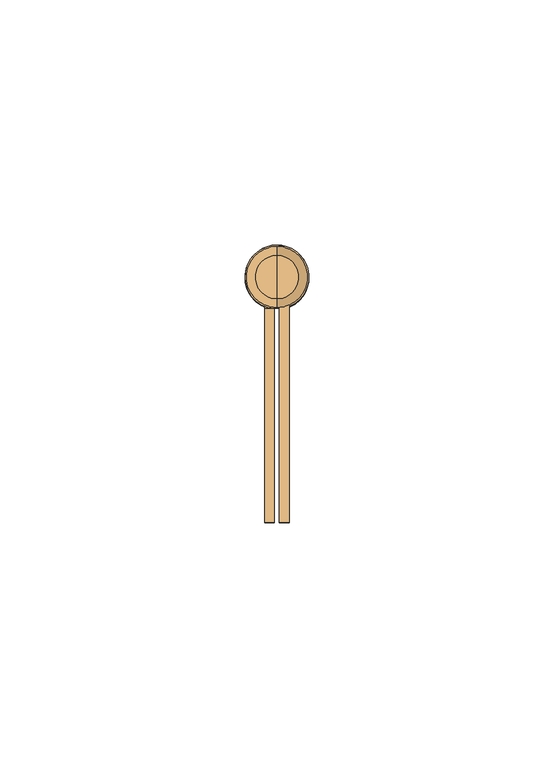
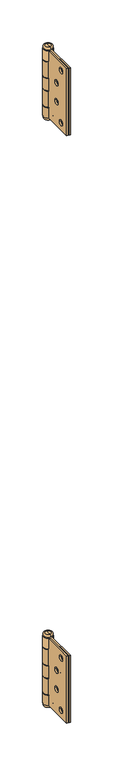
"""IFC4 building model written with IfcOpenShell, lengths in millimetres: door geometry, Puerta contraplacada : Puerta contraplacada 0.7x2.10 m."""

from ifc_helpers import new_model, si_unit, point, frame, origin, place, context, project, spatial, polyline, circle_curve, ellipse_curve, trimmed, source, transform, mapped, element, save
from ifc_brep_helpers import plane_surface, cylinder_surface, revolved_surface, advanced_brep


def door_bb016787(model_context):
    return source(origin(), model_context, "Body", "AdvancedBrep", [
        advanced_brep(
        [(-314.0, 7.5, 1950.0), (-314.0, 7.5, 1850.0), (-314.0, 51.5, 1850.0), (-314.0, 51.5, 1865.5), (-314.0, 51.0, 1865.5), (-314.0, 51.0, 1891.0), (-314.0, 51.5, 1891.0), (-314.0, 51.5, 1909.0), (-314.0, 51.0, 1909.0), (-314.0, 51.0, 1934.5), (-314.0, 51.5, 1934.5), (-314.0, 51.5, 1950.0), (-314.0, 17.5, 1861.0), (-314.0, 25.5, 1861.0), (-314.0, 28.5, 1886.0), (-314.0, 36.5, 1886.0), (-314.0, 17.5, 1939.0), (-314.0, 25.5, 1939.0), (-314.0, 28.5, 1914.0), (-314.0, 36.5, 1914.0), (-316.0, 7.5, 1850.0), (-316.0, 7.5, 1950.0), (-316.0, 53.027864, 1950.0), (-316.0, 53.027864, 1934.5), (-316.0, 51.0, 1934.5), (-316.0, 51.0, 1909.0), (-316.0, 53.027864, 1909.0), (-316.0, 53.027864, 1891.0), (-316.0, 51.0, 1891.0), (-316.0, 51.0, 1865.5), (-316.0, 53.027864, 1865.5), (-316.0, 53.027864, 1850.0), (-316.0, 25.5, 1861.0), (-316.0, 17.5, 1861.0), (-316.0, 36.5, 1886.0), (-316.0, 28.5, 1886.0), (-316.0, 25.5, 1939.0), (-316.0, 17.5, 1939.0), (-316.0, 36.5, 1914.0), (-316.0, 28.5, 1914.0), (-317.0, 53.027864, 1850.0), (-317.0, 51.0192593, 1850.0), (-317.0, 51.0192593, 1950.0), (-317.0, 53.027864, 1950.0), (-317.0, 53.027864, 1934.5), (-317.0, 51.0192593, 1934.5), (-317.0, 51.0192593, 1909.0), (-317.0, 53.027864, 1909.0), (-317.0, 53.027864, 1891.0), (-317.0, 51.0192593, 1891.0), (-317.0, 51.0192593, 1865.5), (-317.0, 53.027864, 1865.5)],
        [
            (0, 1),
            (1, 2),
            (2, 3),
            (3, 4),
            (4, 5),
            (5, 6),
            (6, 7),
            (7, 8),
            (8, 9),
            (9, 10),
            (10, 11),
            (11, 0),
            (12, 13, circle_curve(frame((-314.0, 21.5, 1861.0), z_axis=(-1.0, 0.0, 0.0), x_axis=(0.0, -1.0, 0.0)), 4.0)),
            (13, 12, circle_curve(frame((-314.0, 21.5, 1861.0), z_axis=(-1.0, 0.0, 0.0), x_axis=(0.0, -1.0, 0.0)), 4.0)),
            (14, 15, circle_curve(frame((-314.0, 32.5, 1886.0), z_axis=(-1.0, 0.0, 0.0), x_axis=(0.0, -1.0, 0.0)), 4.0)),
            (15, 14, circle_curve(frame((-314.0, 32.5, 1886.0), z_axis=(-1.0, 0.0, 0.0), x_axis=(0.0, -1.0, 0.0)), 4.0)),
            (16, 17, circle_curve(frame((-314.0, 21.5, 1939.0), z_axis=(-1.0, 0.0, 0.0), x_axis=(0.0, -1.0, 0.0)), 4.0)),
            (17, 16, circle_curve(frame((-314.0, 21.5, 1939.0), z_axis=(-1.0, 0.0, 0.0), x_axis=(0.0, -1.0, 0.0)), 4.0)),
            (18, 19, circle_curve(frame((-314.0, 32.5, 1914.0), z_axis=(-1.0, 0.0, 0.0), x_axis=(0.0, -1.0, 0.0)), 4.0)),
            (19, 18, circle_curve(frame((-314.0, 32.5, 1914.0), z_axis=(-1.0, 0.0, 0.0), x_axis=(0.0, -1.0, 0.0)), 4.0)),
            (20, 21),
            (21, 22),
            (22, 23),
            (23, 24),
            (24, 25),
            (25, 26),
            (26, 27),
            (27, 28),
            (28, 29),
            (29, 30),
            (30, 31),
            (31, 20),
            (32, 33, circle_curve(frame((-316.0, 21.5, 1861.0), z_axis=(1.0, 0.0, 0.0), x_axis=(0.0, -1.0, 0.0)), 4.0)),
            (33, 32, circle_curve(frame((-316.0, 21.5, 1861.0), z_axis=(1.0, 0.0, 0.0), x_axis=(0.0, -1.0, 0.0)), 4.0)),
            (34, 35, circle_curve(frame((-316.0, 32.5, 1886.0), z_axis=(1.0, 0.0, 0.0), x_axis=(0.0, -1.0, 0.0)), 4.0)),
            (35, 34, circle_curve(frame((-316.0, 32.5, 1886.0), z_axis=(1.0, 0.0, 0.0), x_axis=(0.0, -1.0, 0.0)), 4.0)),
            (36, 37, circle_curve(frame((-316.0, 21.5, 1939.0), z_axis=(1.0, 0.0, 0.0), x_axis=(0.0, -1.0, 0.0)), 4.0)),
            (37, 36, circle_curve(frame((-316.0, 21.5, 1939.0), z_axis=(1.0, 0.0, 0.0), x_axis=(0.0, -1.0, 0.0)), 4.0)),
            (38, 39, circle_curve(frame((-316.0, 32.5, 1914.0), z_axis=(1.0, 0.0, 0.0), x_axis=(0.0, -1.0, 0.0)), 4.0)),
            (39, 38, circle_curve(frame((-316.0, 32.5, 1914.0), z_axis=(1.0, 0.0, 0.0), x_axis=(0.0, -1.0, 0.0)), 4.0)),
            (1, 20),
            (31, 40, circle_curve(frame((-316.5, 57.5, 1850.0), z_axis=(0.0, 0.0, 1.0), x_axis=(0.0, 1.0, 0.0)), 4.5)),
            (40, 41),
            (41, 2, circle_curve(frame((-316.5, 57.5, 1850.0), z_axis=(0.0, 0.0, -1.0), x_axis=(0.0, 1.0, 0.0)), 6.5)),
            (0, 21),
            (11, 42, circle_curve(frame((-316.5, 57.5, 1950.0), z_axis=(0.0, 0.0, 1.0), x_axis=(0.0, 1.0, 0.0)), 6.5)),
            (42, 43),
            (43, 22, circle_curve(frame((-316.5, 57.5, 1950.0), z_axis=(0.0, 0.0, -1.0), x_axis=(0.0, 1.0, 0.0)), 4.5)),
            (24, 9),
            (8, 25),
            (28, 5),
            (4, 29),
            (23, 44, circle_curve(frame((-316.5, 57.5, 1934.5), z_axis=(0.0, 0.0, 1.0), x_axis=(0.0, 1.0, 0.0)), 4.5)),
            (44, 45),
            (45, 10, circle_curve(frame((-316.5, 57.5, 1934.5), z_axis=(0.0, 0.0, -1.0), x_axis=(0.0, 1.0, 0.0)), 6.5)),
            (45, 42),
            (44, 43),
            (7, 46, circle_curve(frame((-316.5, 57.5, 1909.0), z_axis=(0.0, 0.0, 1.0), x_axis=(0.0, 1.0, 0.0)), 6.5)),
            (46, 47),
            (47, 26, circle_curve(frame((-316.5, 57.5, 1909.0), z_axis=(0.0, 0.0, -1.0), x_axis=(0.0, 1.0, 0.0)), 4.5)),
            (27, 48, circle_curve(frame((-316.5, 57.5, 1891.0), z_axis=(0.0, 0.0, 1.0), x_axis=(0.0, 1.0, 0.0)), 4.5)),
            (48, 49),
            (49, 6, circle_curve(frame((-316.5, 57.5, 1891.0), z_axis=(0.0, 0.0, -1.0), x_axis=(0.0, 1.0, 0.0)), 6.5)),
            (49, 46),
            (48, 47),
            (3, 50, circle_curve(frame((-316.5, 57.5, 1865.5), z_axis=(0.0, 0.0, 1.0), x_axis=(0.0, 1.0, 0.0)), 6.5)),
            (50, 51),
            (51, 30, circle_curve(frame((-316.5, 57.5, 1865.5), z_axis=(0.0, 0.0, -1.0), x_axis=(0.0, 1.0, 0.0)), 4.5)),
            (41, 50),
            (40, 51),
            (32, 13),
            (12, 33),
            (34, 15),
            (14, 35),
            (36, 17),
            (16, 37),
            (38, 19),
            (18, 39),
        ],
        [
            plane_surface(frame((-314.0, 51.0, 1850.0), z_axis=(1.0, 0.0, 0.0), x_axis=(0.0, 0.0, 1.0))),
            plane_surface(frame((-316.0, 51.0, 1850.0), z_axis=(-1.0, 0.0, 0.0), x_axis=(0.0, 0.0, -1.0))),
            plane_surface(frame((-314.0, 7.5, 1850.0), z_axis=(0.0, 0.0, -1.0), x_axis=(-1.0, 0.0, 0.0))),
            plane_surface(frame((-314.0, 7.5, 1950.0), z_axis=(0.0, -1.0, 0.0), x_axis=(-1.0, 0.0, 0.0))),
            plane_surface(frame((-314.0, 51.0, 1950.0), z_axis=(0.0, 0.0, 1.0), x_axis=(-1.0, 0.0, 0.0))),
            plane_surface(frame((-314.0, 51.0, 1850.0), z_axis=(0.0, 1.0, 0.0), x_axis=(-1.0, 0.0, 0.0))),
            plane_surface(frame((-316.0, 51.0, 1934.5), z_axis=(0.0, 0.0, -1.0), x_axis=(0.0, 1.0, 0.0))),
            cylinder_surface(frame((-316.5, 57.5, 1934.5), z_axis=(0.0, 0.0, 1.0), x_axis=(0.0, 1.0, 0.0)), 6.5),
            plane_surface(frame((-317.0, 51.0192593, 1950.0), z_axis=(1.0, 0.0, 0.0), x_axis=(0.0, 0.0, -1.0))),
            revolved_surface(polyline([(-316.5, 62.0, 1934.5), (-316.5, 62.0, 1950.0)]), (-316.5, 57.5, 1934.5), (0.0, 0.0, -1.0)),
            plane_surface(frame((-316.0, 51.0, 1909.0), z_axis=(0.0, 0.0, 1.0), x_axis=(0.0, -1.0, 0.0))),
            plane_surface(frame((-316.0, 51.0, 1891.0), z_axis=(0.0, 0.0, -1.0), x_axis=(0.0, 1.0, 0.0))),
            cylinder_surface(frame((-316.5, 57.5, 1891.0), z_axis=(0.0, 0.0, 1.0), x_axis=(0.0, 1.0, 0.0)), 6.5),
            plane_surface(frame((-317.0, 51.0192593, 1909.0), z_axis=(1.0, 0.0, 0.0), x_axis=(0.0, 0.0, -1.0))),
            revolved_surface(polyline([(-316.5, 62.0, 1891.0), (-316.5, 62.0, 1909.0)]), (-316.5, 57.5, 1891.0), (0.0, 0.0, -1.0)),
            plane_surface(frame((-316.0, 51.0, 1865.5), z_axis=(0.0, 0.0, 1.0), x_axis=(0.0, -1.0, 0.0))),
            cylinder_surface(frame((-316.5, 57.5, 1850.0), z_axis=(0.0, 0.0, 1.0), x_axis=(0.0, 1.0, 0.0)), 6.5),
            plane_surface(frame((-317.0, 51.0192593, 1865.5), z_axis=(1.0, 0.0, 0.0), x_axis=(0.0, 0.0, -1.0))),
            revolved_surface(polyline([(-316.5, 62.0, 1850.0), (-316.5, 62.0, 1865.5)]), (-316.5, 57.5, 1850.0), (0.0, 0.0, -1.0)),
            revolved_surface(polyline([(-314.0, 17.5, 1861.0), (-316.0, 17.5, 1861.0)]), (-319.0, 21.5, 1861.0), (1.0, 0.0, 0.0)),
            revolved_surface(polyline([(-314.0, 28.5, 1886.0), (-316.0, 28.5, 1886.0)]), (-317.0, 32.5, 1886.0), (1.0, 0.0, 0.0)),
            revolved_surface(polyline([(-314.0, 17.5, 1939.0), (-316.0, 17.5, 1939.0)]), (-317.0, 21.5, 1939.0), (1.0, 0.0, 0.0)),
            revolved_surface(polyline([(-314.0, 28.5, 1914.0), (-316.0, 28.5, 1914.0)]), (-317.0, 32.5, 1914.0), (1.0, 0.0, 0.0)),
        ],
        [
            (0, [[1, 2, 3, 4, 5, 6, 7, 8, 9, 10, 11, 12], [13, 14], [15, 16], [17, 18], [19, 20]]),
            (1, [[21, 22, 23, 24, 25, 26, 27, 28, 29, 30, 31, 32], [33, 34], [35, 36], [37, 38], [39, 40]]),
            (2, [[41, -32, 42, 43, 44, -2]]),
            (3, [[-1, 45, -21, -41]]),
            (4, [[-45, -12, 46, 47, 48, -22]]),
            (5, [[49, -9, 50, -25]]),
            (5, [[51, -5, 52, -29]]),
            (6, [[53, 54, 55, -10, -49, -24]]),
            (7, [[-46, -11, -55, 56]]),
            (8, [[-47, -56, -54, 57]]),
            (9, [[-48, -57, -53, -23]]),
            (10, [[58, 59, 60, -26, -50, -8]]),
            (11, [[61, 62, 63, -6, -51, -28]]),
            (12, [[-58, -7, -63, 64]]),
            (13, [[-59, -64, -62, 65]]),
            (14, [[-60, -65, -61, -27]]),
            (15, [[66, 67, 68, -30, -52, -4]]),
            (16, [[-66, -3, -44, 69]]),
            (17, [[-67, -69, -43, 70]]),
            (18, [[-68, -70, -42, -31]]),
            (19, [[71, -13, 72, -33]]),
            (19, [[-71, -34, -72, -14]]),
            (20, [[73, -15, 74, -35]]),
            (20, [[-73, -36, -74, -16]]),
            (21, [[75, -17, 76, -37]]),
            (21, [[-75, -38, -76, -18]]),
            (22, [[77, -19, 78, -39]]),
            (22, [[-77, -40, -78, -20]]),
        ],
    ),
        advanced_brep(
        [(-316.5, 53.0, 1954.0), (-316.5, 61.9442719, 1954.0), (-316.5, 61.9442719, 1950.5), (-316.5, 53.0, 1950.5), (-316.5, 57.472136, 1954.0), (-316.5, 53.0, 1846.0), (-316.5, 61.9442719, 1846.0), (-316.5, 57.472136, 1846.0), (-316.5, 53.0, 1849.5), (-316.5, 61.9442719, 1849.5)],
        [
            (0, 1, circle_curve(frame((-316.5, 57.472136, 1954.0), z_axis=(0.0, 0.0, -1.0), x_axis=(0.0, 1.0, 0.0)), 4.472136)),
            (1, 2, circle_curve(frame((-316.5, 61.9442719, 1952.25), z_axis=(-1.0, 0.0, 0.0), x_axis=(0.0, -1.0, 0.0)), 1.75)),
            (2, 3, circle_curve(frame((-316.5, 57.472136, 1950.5), z_axis=(0.0, 0.0, 1.0), x_axis=(0.0, 1.0, 0.0)), 4.472136)),
            (3, 0, circle_curve(frame((-316.5, 53.0, 1952.25), z_axis=(-1.0, 0.0, 0.0), x_axis=(0.0, 1.0, 0.0)), 1.75)),
            (1, 0, circle_curve(frame((-316.5, 57.472136, 1954.0), z_axis=(0.0, 0.0, -1.0), x_axis=(0.0, 1.0, 0.0)), 4.472136)),
            (3, 2, circle_curve(frame((-316.5, 57.472136, 1950.5), z_axis=(0.0, 0.0, 1.0), x_axis=(0.0, 1.0, 0.0)), 4.472136)),
            (4, 1),
            (0, 4),
            (5, 6, circle_curve(frame((-316.5, 57.472136, 1846.0), z_axis=(0.0, 0.0, -1.0), x_axis=(0.0, 1.0, 0.0)), 4.472136)),
            (6, 7),
            (7, 5),
            (6, 5, circle_curve(frame((-316.5, 57.472136, 1846.0), z_axis=(0.0, 0.0, -1.0), x_axis=(0.0, 1.0, 0.0)), 4.472136)),
            (8, 9, circle_curve(frame((-316.5, 57.472136, 1849.5), z_axis=(0.0, 0.0, -1.0), x_axis=(0.0, 1.0, 0.0)), 4.472136)),
            (9, 6, circle_curve(frame((-316.5, 61.9442719, 1847.75), z_axis=(-1.0, 0.0, 0.0), x_axis=(0.0, -1.0, 0.0)), 1.75)),
            (5, 8, circle_curve(frame((-316.5, 53.0, 1847.75), z_axis=(-1.0, 0.0, 0.0), x_axis=(0.0, 1.0, 0.0)), 1.75)),
            (9, 8, circle_curve(frame((-316.5, 57.472136, 1849.5), z_axis=(0.0, 0.0, -1.0), x_axis=(0.0, 1.0, 0.0)), 4.472136)),
            (2, 9),
            (8, 3),
        ],
        [
            revolved_surface(trimmed(ellipse_curve(frame((-316.5, 61.9442719, 1952.25), z_axis=(1.0, 0.0, 0.0), x_axis=(0.0, -1.0, 0.0)), 1.75, 1.75), [point((-316.5, 61.9442719, 1950.5))], [point((-316.5, 61.9442719, 1954.0))], True, "CARTESIAN"), (-316.5, 57.472136, 1954.0), (0.0, 0.0, 1.0)),
            plane_surface(frame((-316.5, 57.472136, 1954.0), z_axis=(0.0, 0.0, 1.0), x_axis=(0.0, 1.0, 0.0))),
            plane_surface(frame((-316.5, 57.472136, 1846.0), z_axis=(0.0, 0.0, -1.0), x_axis=(0.0, 1.0, 0.0))),
            revolved_surface(trimmed(ellipse_curve(frame((-316.5, 61.9442719, 1847.75), z_axis=(1.0, 0.0, 0.0), x_axis=(0.0, -1.0, 0.0)), 1.75, 1.75), [point((-316.5, 61.9442719, 1846.0))], [point((-316.5, 61.9442719, 1849.5))], True, "CARTESIAN"), (-316.5, 57.472136, 1954.0), (0.0, 0.0, 1.0)),
            cylinder_surface(frame((-316.5, 57.472136, 1954.0), z_axis=(0.0, 0.0, 1.0), x_axis=(0.0, 1.0, 0.0)), 4.472136),
        ],
        [
            (0, [[1, 2, 3, 4]]),
            (0, [[5, -4, 6, -2]]),
            (1, [[7, -1, 8]]),
            (1, [[-8, -5, -7]]),
            (2, [[9, 10, 11]]),
            (2, [[12, -11, -10]]),
            (3, [[13, 14, -9, 15]]),
            (3, [[16, -15, -12, -14]]),
            (4, [[-3, 17, -13, 18]]),
            (4, [[-6, -18, -16, -17]]),
        ],
    ),
        advanced_brep(
        [(-317.0, 51.0, 1950.0), (-317.0, 7.5, 1950.0), (-317.0, 7.5, 1850.0), (-317.0, 51.0, 1850.0), (-317.0, 51.0, 1866.5), (-317.0, 53.027864, 1866.5), (-317.0, 53.027864, 1890.0), (-317.0, 51.0, 1890.0), (-317.0, 51.0, 1910.0), (-317.0, 53.027864, 1910.0), (-317.0, 53.027864, 1933.5), (-317.0, 51.0, 1933.5), (-317.0, 17.5, 1861.0), (-317.0, 25.5, 1861.0), (-317.0, 28.5, 1886.0), (-317.0, 36.5, 1886.0), (-317.0, 17.5, 1939.0), (-317.0, 25.5, 1939.0), (-317.0, 28.5, 1914.0), (-317.0, 36.5, 1914.0), (-319.0, 51.0, 1850.0), (-319.0, 7.5, 1850.0), (-319.0, 7.5, 1950.0), (-319.0, 51.0, 1950.0), (-319.0, 51.0, 1933.5), (-319.0, 51.5, 1933.5), (-319.0, 51.5, 1910.0), (-319.0, 51.0, 1910.0), (-319.0, 51.0, 1890.0), (-319.0, 51.5, 1890.0), (-319.0, 51.5, 1866.5), (-319.0, 51.0, 1866.5), (-319.0, 25.5, 1861.0), (-319.0, 17.5, 1861.0), (-319.0, 36.5, 1886.0), (-319.0, 28.5, 1886.0), (-319.0, 25.5, 1939.0), (-319.0, 17.5, 1939.0), (-319.0, 36.5, 1914.0), (-319.0, 28.5, 1914.0), (-316.0, 53.027864, 1933.5), (-316.0, 51.0192593, 1933.5), (-316.0, 51.0192593, 1910.0), (-316.0, 53.027864, 1910.0), (-316.0, 53.027864, 1890.0), (-316.0, 51.0192593, 1890.0), (-316.0, 51.0192593, 1866.5), (-316.0, 53.027864, 1866.5)],
        [
            (0, 1),
            (1, 2),
            (2, 3),
            (3, 4),
            (4, 5),
            (5, 6),
            (6, 7),
            (7, 8),
            (8, 9),
            (9, 10),
            (10, 11),
            (11, 0),
            (12, 13, circle_curve(frame((-317.0, 21.5, 1861.0), z_axis=(-1.0, 0.0, 0.0), x_axis=(0.0, -1.0, 0.0)), 4.0)),
            (13, 12, circle_curve(frame((-317.0, 21.5, 1861.0), z_axis=(-1.0, 0.0, 0.0), x_axis=(0.0, -1.0, 0.0)), 4.0)),
            (14, 15, circle_curve(frame((-317.0, 32.5, 1886.0), z_axis=(-1.0, 0.0, 0.0), x_axis=(0.0, -1.0, 0.0)), 4.0)),
            (15, 14, circle_curve(frame((-317.0, 32.5, 1886.0), z_axis=(-1.0, 0.0, 0.0), x_axis=(0.0, -1.0, 0.0)), 4.0)),
            (16, 17, circle_curve(frame((-317.0, 21.5, 1939.0), z_axis=(-1.0, 0.0, 0.0), x_axis=(0.0, -1.0, 0.0)), 4.0)),
            (17, 16, circle_curve(frame((-317.0, 21.5, 1939.0), z_axis=(-1.0, 0.0, 0.0), x_axis=(0.0, -1.0, 0.0)), 4.0)),
            (18, 19, circle_curve(frame((-317.0, 32.5, 1914.0), z_axis=(-1.0, 0.0, 0.0), x_axis=(0.0, -1.0, 0.0)), 4.0)),
            (19, 18, circle_curve(frame((-317.0, 32.5, 1914.0), z_axis=(-1.0, 0.0, 0.0), x_axis=(0.0, -1.0, 0.0)), 4.0)),
            (20, 21),
            (21, 22),
            (22, 23),
            (23, 24),
            (24, 25),
            (25, 26),
            (26, 27),
            (27, 28),
            (28, 29),
            (29, 30),
            (30, 31),
            (31, 20),
            (32, 33, circle_curve(frame((-319.0, 21.5, 1861.0), z_axis=(1.0, 0.0, 0.0), x_axis=(0.0, -1.0, 0.0)), 4.0)),
            (33, 32, circle_curve(frame((-319.0, 21.5, 1861.0), z_axis=(1.0, 0.0, 0.0), x_axis=(0.0, -1.0, 0.0)), 4.0)),
            (34, 35, circle_curve(frame((-319.0, 32.5, 1886.0), z_axis=(1.0, 0.0, 0.0), x_axis=(0.0, -1.0, 0.0)), 4.0)),
            (35, 34, circle_curve(frame((-319.0, 32.5, 1886.0), z_axis=(1.0, 0.0, 0.0), x_axis=(0.0, -1.0, 0.0)), 4.0)),
            (36, 37, circle_curve(frame((-319.0, 21.5, 1939.0), z_axis=(1.0, 0.0, 0.0), x_axis=(0.0, -1.0, 0.0)), 4.0)),
            (37, 36, circle_curve(frame((-319.0, 21.5, 1939.0), z_axis=(1.0, 0.0, 0.0), x_axis=(0.0, -1.0, 0.0)), 4.0)),
            (38, 39, circle_curve(frame((-319.0, 32.5, 1914.0), z_axis=(1.0, 0.0, 0.0), x_axis=(0.0, -1.0, 0.0)), 4.0)),
            (39, 38, circle_curve(frame((-319.0, 32.5, 1914.0), z_axis=(1.0, 0.0, 0.0), x_axis=(0.0, -1.0, 0.0)), 4.0)),
            (2, 21),
            (20, 3),
            (1, 22),
            (0, 23),
            (11, 24),
            (31, 4),
            (27, 8),
            (7, 28),
            (10, 40, circle_curve(frame((-316.5, 57.5, 1933.5), z_axis=(0.0, 0.0, -1.0), x_axis=(0.0, 1.0, 0.0)), 4.5)),
            (40, 41),
            (41, 25, circle_curve(frame((-316.5, 57.5, 1933.5), z_axis=(0.0, 0.0, 1.0), x_axis=(0.0, 1.0, 0.0)), 6.5)),
            (26, 42, circle_curve(frame((-316.5, 57.5, 1910.0), z_axis=(0.0, 0.0, -1.0), x_axis=(0.0, 1.0, 0.0)), 6.5)),
            (42, 43),
            (43, 9, circle_curve(frame((-316.5, 57.5, 1910.0), z_axis=(0.0, 0.0, 1.0), x_axis=(0.0, 1.0, 0.0)), 4.5)),
            (41, 42),
            (40, 43),
            (6, 44, circle_curve(frame((-316.5, 57.5, 1890.0), z_axis=(0.0, 0.0, -1.0), x_axis=(0.0, 1.0, 0.0)), 4.5)),
            (44, 45),
            (45, 29, circle_curve(frame((-316.5, 57.5, 1890.0), z_axis=(0.0, 0.0, 1.0), x_axis=(0.0, 1.0, 0.0)), 6.5)),
            (30, 46, circle_curve(frame((-316.5, 57.5, 1866.5), z_axis=(0.0, 0.0, -1.0), x_axis=(0.0, 1.0, 0.0)), 6.5)),
            (46, 47),
            (47, 5, circle_curve(frame((-316.5, 57.5, 1866.5), z_axis=(0.0, 0.0, 1.0), x_axis=(0.0, 1.0, 0.0)), 4.5)),
            (45, 46),
            (44, 47),
            (32, 13),
            (12, 33),
            (34, 15),
            (14, 35),
            (36, 17),
            (16, 37),
            (38, 19),
            (18, 39),
        ],
        [
            plane_surface(frame((-317.0, 51.0, 1850.0), z_axis=(1.0, 0.0, 0.0), x_axis=(0.0, 0.0, 1.0))),
            plane_surface(frame((-319.0, 51.0, 1850.0), z_axis=(-1.0, 0.0, 0.0), x_axis=(0.0, 0.0, -1.0))),
            plane_surface(frame((-317.0, 7.5, 1850.0), z_axis=(0.0, 0.0, -1.0), x_axis=(-1.0, 0.0, 0.0))),
            plane_surface(frame((-317.0, 7.5, 1950.0), z_axis=(0.0, -1.0, 0.0), x_axis=(-1.0, 0.0, 0.0))),
            plane_surface(frame((-317.0, 51.0, 1950.0), z_axis=(0.0, 0.0, 1.0), x_axis=(-1.0, 0.0, 0.0))),
            plane_surface(frame((-317.0, 51.0, 1850.0), z_axis=(0.0, 1.0, 0.0), x_axis=(-1.0, 0.0, 0.0))),
            plane_surface(frame((-316.5, 62.0, 1933.5), z_axis=(0.0, 0.0, 1.0), x_axis=(1.0, 0.0, 0.0))),
            plane_surface(frame((-316.5, 62.0, 1910.0), z_axis=(0.0, 0.0, -1.0), x_axis=(-1.0, 0.0, 0.0))),
            cylinder_surface(frame((-316.5, 57.5, 1910.0), z_axis=(0.0, 0.0, 1.0), x_axis=(0.0, 1.0, 0.0)), 6.5),
            plane_surface(frame((-316.0, 53.027864, 1933.5), z_axis=(-1.0, 0.0, 0.0), x_axis=(0.0, 0.0, -1.0))),
            revolved_surface(polyline([(-316.5, 62.0, 1910.0), (-316.5, 62.0, 1933.5)]), (-316.5, 57.5, 1910.0), (0.0, 0.0, -1.0)),
            plane_surface(frame((-316.5, 62.0, 1890.0), z_axis=(0.0, 0.0, 1.0), x_axis=(1.0, 0.0, 0.0))),
            plane_surface(frame((-316.5, 62.0, 1866.5), z_axis=(0.0, 0.0, -1.0), x_axis=(-1.0, 0.0, 0.0))),
            cylinder_surface(frame((-316.5, 57.5, 1866.5), z_axis=(0.0, 0.0, 1.0), x_axis=(0.0, 1.0, 0.0)), 6.5),
            plane_surface(frame((-316.0, 53.027864, 1890.0), z_axis=(-1.0, 0.0, 0.0), x_axis=(0.0, 0.0, -1.0))),
            revolved_surface(polyline([(-316.5, 62.0, 1866.5), (-316.5, 62.0, 1890.0)]), (-316.5, 57.5, 1866.5), (0.0, 0.0, -1.0)),
            revolved_surface(polyline([(-317.0, 17.5, 1861.0), (-319.0, 17.5, 1861.0)]), (-319.0, 21.5, 1861.0), (1.0, 0.0, 0.0)),
            revolved_surface(polyline([(-317.0, 28.5, 1886.0), (-319.0, 28.5, 1886.0)]), (-317.0, 32.5, 1886.0), (1.0, 0.0, 0.0)),
            revolved_surface(polyline([(-317.0, 17.5, 1939.0), (-319.0, 17.5, 1939.0)]), (-317.0, 21.5, 1939.0), (1.0, 0.0, 0.0)),
            revolved_surface(polyline([(-317.0, 28.5, 1914.0), (-319.0, 28.5, 1914.0)]), (-317.0, 32.5, 1914.0), (1.0, 0.0, 0.0)),
        ],
        [
            (0, [[1, 2, 3, 4, 5, 6, 7, 8, 9, 10, 11, 12], [13, 14], [15, 16], [17, 18], [19, 20]]),
            (1, [[21, 22, 23, 24, 25, 26, 27, 28, 29, 30, 31, 32], [33, 34], [35, 36], [37, 38], [39, 40]]),
            (2, [[-3, 41, -21, 42]]),
            (3, [[-2, 43, -22, -41]]),
            (4, [[-1, 44, -23, -43]]),
            (5, [[-44, -12, 45, -24]]),
            (5, [[-42, -32, 46, -4]]),
            (5, [[47, -8, 48, -28]]),
            (6, [[49, 50, 51, -25, -45, -11]]),
            (7, [[52, 53, 54, -9, -47, -27]]),
            (8, [[-51, 55, -52, -26]]),
            (9, [[-50, 56, -53, -55]]),
            (10, [[-49, -10, -54, -56]]),
            (11, [[57, 58, 59, -29, -48, -7]]),
            (12, [[60, 61, 62, -5, -46, -31]]),
            (13, [[-59, 63, -60, -30]]),
            (14, [[-58, 64, -61, -63]]),
            (15, [[-57, -6, -62, -64]]),
            (16, [[65, -13, 66, -33]]),
            (16, [[-65, -34, -66, -14]]),
            (17, [[67, -15, 68, -35]]),
            (17, [[-67, -36, -68, -16]]),
            (18, [[69, -17, 70, -37]]),
            (18, [[-69, -38, -70, -18]]),
            (19, [[71, -19, 72, -39]]),
            (19, [[-71, -40, -72, -20]]),
        ],
    ),
        advanced_brep(
        [(-314.0, 7.5, 1075.0174632), (-314.0, 7.5, 975.0174632), (-314.0, 51.5, 975.0174632), (-314.0, 51.5, 990.5174632), (-314.0, 51.0, 990.5174632), (-314.0, 51.0, 1016.0174632), (-314.0, 51.5, 1016.0174632), (-314.0, 51.5, 1034.0174632), (-314.0, 51.0, 1034.0174632), (-314.0, 51.0, 1059.5174632), (-314.0, 51.5, 1059.5174632), (-314.0, 51.5, 1075.0174632), (-314.0, 17.5, 986.0174632), (-314.0, 25.5, 986.0174632), (-314.0, 28.5, 1011.0174632), (-314.0, 36.5, 1011.0174632), (-314.0, 17.5, 1064.0174632), (-314.0, 25.5, 1064.0174632), (-314.0, 28.5, 1039.0174632), (-314.0, 36.5, 1039.0174632), (-316.0, 7.5, 975.0174632), (-316.0, 7.5, 1075.0174632), (-316.0, 53.027864, 1075.0174632), (-316.0, 53.027864, 1059.5174632), (-316.0, 51.0, 1059.5174632), (-316.0, 51.0, 1034.0174632), (-316.0, 53.027864, 1034.0174632), (-316.0, 53.027864, 1016.0174632), (-316.0, 51.0, 1016.0174632), (-316.0, 51.0, 990.5174632), (-316.0, 53.027864, 990.5174632), (-316.0, 53.027864, 975.0174632), (-316.0, 25.5, 986.0174632), (-316.0, 17.5, 986.0174632), (-316.0, 36.5, 1011.0174632), (-316.0, 28.5, 1011.0174632), (-316.0, 25.5, 1064.0174632), (-316.0, 17.5, 1064.0174632), (-316.0, 36.5, 1039.0174632), (-316.0, 28.5, 1039.0174632), (-317.0, 53.027864, 975.0174632), (-317.0, 51.0192593, 975.0174632), (-317.0, 51.0192593, 1075.0174632), (-317.0, 53.027864, 1075.0174632), (-317.0, 53.027864, 1059.5174632), (-317.0, 51.0192593, 1059.5174632), (-317.0, 51.0192593, 1034.0174632), (-317.0, 53.027864, 1034.0174632), (-317.0, 53.027864, 1016.0174632), (-317.0, 51.0192593, 1016.0174632), (-317.0, 51.0192593, 990.5174632), (-317.0, 53.027864, 990.5174632)],
        [
            (0, 1),
            (1, 2),
            (2, 3),
            (3, 4),
            (4, 5),
            (5, 6),
            (6, 7),
            (7, 8),
            (8, 9),
            (9, 10),
            (10, 11),
            (11, 0),
            (12, 13, circle_curve(frame((-314.0, 21.5, 986.0174632), z_axis=(-1.0, 0.0, 0.0), x_axis=(0.0, -1.0, 0.0)), 4.0)),
            (13, 12, circle_curve(frame((-314.0, 21.5, 986.0174632), z_axis=(-1.0, 0.0, 0.0), x_axis=(0.0, -1.0, 0.0)), 4.0)),
            (14, 15, circle_curve(frame((-314.0, 32.5, 1011.0174632), z_axis=(-1.0, 0.0, 0.0), x_axis=(0.0, -1.0, 0.0)), 4.0)),
            (15, 14, circle_curve(frame((-314.0, 32.5, 1011.0174632), z_axis=(-1.0, 0.0, 0.0), x_axis=(0.0, -1.0, 0.0)), 4.0)),
            (16, 17, circle_curve(frame((-314.0, 21.5, 1064.0174632), z_axis=(-1.0, 0.0, 0.0), x_axis=(0.0, -1.0, 0.0)), 4.0)),
            (17, 16, circle_curve(frame((-314.0, 21.5, 1064.0174632), z_axis=(-1.0, 0.0, 0.0), x_axis=(0.0, -1.0, 0.0)), 4.0)),
            (18, 19, circle_curve(frame((-314.0, 32.5, 1039.0174632), z_axis=(-1.0, 0.0, 0.0), x_axis=(0.0, -1.0, 0.0)), 4.0)),
            (19, 18, circle_curve(frame((-314.0, 32.5, 1039.0174632), z_axis=(-1.0, 0.0, 0.0), x_axis=(0.0, -1.0, 0.0)), 4.0)),
            (20, 21),
            (21, 22),
            (22, 23),
            (23, 24),
            (24, 25),
            (25, 26),
            (26, 27),
            (27, 28),
            (28, 29),
            (29, 30),
            (30, 31),
            (31, 20),
            (32, 33, circle_curve(frame((-316.0, 21.5, 986.0174632), z_axis=(1.0, 0.0, 0.0), x_axis=(0.0, -1.0, 0.0)), 4.0)),
            (33, 32, circle_curve(frame((-316.0, 21.5, 986.0174632), z_axis=(1.0, 0.0, 0.0), x_axis=(0.0, -1.0, 0.0)), 4.0)),
            (34, 35, circle_curve(frame((-316.0, 32.5, 1011.0174632), z_axis=(1.0, 0.0, 0.0), x_axis=(0.0, -1.0, 0.0)), 4.0)),
            (35, 34, circle_curve(frame((-316.0, 32.5, 1011.0174632), z_axis=(1.0, 0.0, 0.0), x_axis=(0.0, -1.0, 0.0)), 4.0)),
            (36, 37, circle_curve(frame((-316.0, 21.5, 1064.0174632), z_axis=(1.0, 0.0, 0.0), x_axis=(0.0, -1.0, 0.0)), 4.0)),
            (37, 36, circle_curve(frame((-316.0, 21.5, 1064.0174632), z_axis=(1.0, 0.0, 0.0), x_axis=(0.0, -1.0, 0.0)), 4.0)),
            (38, 39, circle_curve(frame((-316.0, 32.5, 1039.0174632), z_axis=(1.0, 0.0, 0.0), x_axis=(0.0, -1.0, 0.0)), 4.0)),
            (39, 38, circle_curve(frame((-316.0, 32.5, 1039.0174632), z_axis=(1.0, 0.0, 0.0), x_axis=(0.0, -1.0, 0.0)), 4.0)),
            (1, 20),
            (31, 40, circle_curve(frame((-316.5, 57.5, 975.0174632), z_axis=(0.0, 0.0, 1.0), x_axis=(0.0, 1.0, 0.0)), 4.5)),
            (40, 41),
            (41, 2, circle_curve(frame((-316.5, 57.5, 975.0174632), z_axis=(0.0, 0.0, -1.0), x_axis=(0.0, 1.0, 0.0)), 6.5)),
            (0, 21),
            (11, 42, circle_curve(frame((-316.5, 57.5, 1075.0174632), z_axis=(0.0, 0.0, 1.0), x_axis=(0.0, 1.0, 0.0)), 6.5)),
            (42, 43),
            (43, 22, circle_curve(frame((-316.5, 57.5, 1075.0174632), z_axis=(0.0, 0.0, -1.0), x_axis=(0.0, 1.0, 0.0)), 4.5)),
            (24, 9),
            (8, 25),
            (28, 5),
            (4, 29),
            (23, 44, circle_curve(frame((-316.5, 57.5, 1059.5174632), z_axis=(0.0, 0.0, 1.0), x_axis=(0.0, 1.0, 0.0)), 4.5)),
            (44, 45),
            (45, 10, circle_curve(frame((-316.5, 57.5, 1059.5174632), z_axis=(0.0, 0.0, -1.0), x_axis=(0.0, 1.0, 0.0)), 6.5)),
            (45, 42),
            (44, 43),
            (7, 46, circle_curve(frame((-316.5, 57.5, 1034.0174632), z_axis=(0.0, 0.0, 1.0), x_axis=(0.0, 1.0, 0.0)), 6.5)),
            (46, 47),
            (47, 26, circle_curve(frame((-316.5, 57.5, 1034.0174632), z_axis=(0.0, 0.0, -1.0), x_axis=(0.0, 1.0, 0.0)), 4.5)),
            (27, 48, circle_curve(frame((-316.5, 57.5, 1016.0174632), z_axis=(0.0, 0.0, 1.0), x_axis=(0.0, 1.0, 0.0)), 4.5)),
            (48, 49),
            (49, 6, circle_curve(frame((-316.5, 57.5, 1016.0174632), z_axis=(0.0, 0.0, -1.0), x_axis=(0.0, 1.0, 0.0)), 6.5)),
            (49, 46),
            (48, 47),
            (3, 50, circle_curve(frame((-316.5, 57.5, 990.5174632), z_axis=(0.0, 0.0, 1.0), x_axis=(0.0, 1.0, 0.0)), 6.5)),
            (50, 51),
            (51, 30, circle_curve(frame((-316.5, 57.5, 990.5174632), z_axis=(0.0, 0.0, -1.0), x_axis=(0.0, 1.0, 0.0)), 4.5)),
            (41, 50),
            (40, 51),
            (32, 13),
            (12, 33),
            (34, 15),
            (14, 35),
            (36, 17),
            (16, 37),
            (38, 19),
            (18, 39),
        ],
        [
            plane_surface(frame((-314.0, 51.0, 975.0174632), z_axis=(1.0, 0.0, 0.0), x_axis=(0.0, 0.0, 1.0))),
            plane_surface(frame((-316.0, 51.0, 975.0174632), z_axis=(-1.0, 0.0, 0.0), x_axis=(0.0, 0.0, -1.0))),
            plane_surface(frame((-314.0, 7.5, 975.0174632), z_axis=(0.0, 0.0, -1.0), x_axis=(-1.0, 0.0, 0.0))),
            plane_surface(frame((-314.0, 7.5, 1075.0174632), z_axis=(0.0, -1.0, 0.0), x_axis=(-1.0, 0.0, 0.0))),
            plane_surface(frame((-314.0, 51.0, 1075.0174632), z_axis=(0.0, 0.0, 1.0), x_axis=(-1.0, 0.0, 0.0))),
            plane_surface(frame((-314.0, 51.0, 975.0174632), z_axis=(0.0, 1.0, 0.0), x_axis=(-1.0, 0.0, 0.0))),
            plane_surface(frame((-316.0, 51.0, 1059.5174632), z_axis=(0.0, 0.0, -1.0), x_axis=(0.0, 1.0, 0.0))),
            cylinder_surface(frame((-316.5, 57.5, 1059.5174632), z_axis=(0.0, 0.0, 1.0), x_axis=(0.0, 1.0, 0.0)), 6.5),
            plane_surface(frame((-317.0, 51.0192593, 1075.0174632), z_axis=(1.0, 0.0, 0.0), x_axis=(0.0, 0.0, -1.0))),
            revolved_surface(polyline([(-316.5, 62.0, 1059.5174632), (-316.5, 62.0, 1075.0174632)]), (-316.5, 57.5, 1059.5174632), (0.0, 0.0, -1.0)),
            plane_surface(frame((-316.0, 51.0, 1034.0174632), z_axis=(0.0, 0.0, 1.0), x_axis=(0.0, -1.0, 0.0))),
            plane_surface(frame((-316.0, 51.0, 1016.0174632), z_axis=(0.0, 0.0, -1.0), x_axis=(0.0, 1.0, 0.0))),
            cylinder_surface(frame((-316.5, 57.5, 1016.0174632), z_axis=(0.0, 0.0, 1.0), x_axis=(0.0, 1.0, 0.0)), 6.5),
            plane_surface(frame((-317.0, 51.0192593, 1034.0174632), z_axis=(1.0, 0.0, 0.0), x_axis=(0.0, 0.0, -1.0))),
            revolved_surface(polyline([(-316.5, 62.0, 1016.0174632), (-316.5, 62.0, 1034.0174632)]), (-316.5, 57.5, 1016.0174632), (0.0, 0.0, -1.0)),
            plane_surface(frame((-316.0, 51.0, 990.5174632), z_axis=(0.0, 0.0, 1.0), x_axis=(0.0, -1.0, 0.0))),
            cylinder_surface(frame((-316.5, 57.5, 975.0174632), z_axis=(0.0, 0.0, 1.0), x_axis=(0.0, 1.0, 0.0)), 6.5),
            plane_surface(frame((-317.0, 51.0192593, 990.5174632), z_axis=(1.0, 0.0, 0.0), x_axis=(0.0, 0.0, -1.0))),
            revolved_surface(polyline([(-316.5, 62.0, 975.0174632), (-316.5, 62.0, 990.5174632)]), (-316.5, 57.5, 975.0174632), (0.0, 0.0, -1.0)),
            revolved_surface(polyline([(-314.0, 17.5, 986.0174632), (-316.0, 17.5, 986.0174632)]), (-319.0, 21.5, 986.0174632), (1.0, 0.0, 0.0)),
            revolved_surface(polyline([(-314.0, 28.5, 1011.0174632), (-316.0, 28.5, 1011.0174632)]), (-317.0, 32.5, 1011.0174632), (1.0, 0.0, 0.0)),
            revolved_surface(polyline([(-314.0, 17.5, 1064.0174632), (-316.0, 17.5, 1064.0174632)]), (-317.0, 21.5, 1064.0174632), (1.0, 0.0, 0.0)),
            revolved_surface(polyline([(-314.0, 28.5, 1039.0174632), (-316.0, 28.5, 1039.0174632)]), (-317.0, 32.5, 1039.0174632), (1.0, 0.0, 0.0)),
        ],
        [
            (0, [[1, 2, 3, 4, 5, 6, 7, 8, 9, 10, 11, 12], [13, 14], [15, 16], [17, 18], [19, 20]]),
            (1, [[21, 22, 23, 24, 25, 26, 27, 28, 29, 30, 31, 32], [33, 34], [35, 36], [37, 38], [39, 40]]),
            (2, [[41, -32, 42, 43, 44, -2]]),
            (3, [[-1, 45, -21, -41]]),
            (4, [[-45, -12, 46, 47, 48, -22]]),
            (5, [[49, -9, 50, -25]]),
            (5, [[51, -5, 52, -29]]),
            (6, [[53, 54, 55, -10, -49, -24]]),
            (7, [[-46, -11, -55, 56]]),
            (8, [[-47, -56, -54, 57]]),
            (9, [[-48, -57, -53, -23]]),
            (10, [[58, 59, 60, -26, -50, -8]]),
            (11, [[61, 62, 63, -6, -51, -28]]),
            (12, [[-58, -7, -63, 64]]),
            (13, [[-59, -64, -62, 65]]),
            (14, [[-60, -65, -61, -27]]),
            (15, [[66, 67, 68, -30, -52, -4]]),
            (16, [[-66, -3, -44, 69]]),
            (17, [[-67, -69, -43, 70]]),
            (18, [[-68, -70, -42, -31]]),
            (19, [[71, -13, 72, -33]]),
            (19, [[-71, -34, -72, -14]]),
            (20, [[73, -15, 74, -35]]),
            (20, [[-73, -36, -74, -16]]),
            (21, [[75, -17, 76, -37]]),
            (21, [[-75, -38, -76, -18]]),
            (22, [[77, -19, 78, -39]]),
            (22, [[-77, -40, -78, -20]]),
        ],
    ),
        advanced_brep(
        [(-316.5, 53.0, 1079.0174632), (-316.5, 61.9442719, 1079.0174632), (-316.5, 61.9442719, 1075.5174632), (-316.5, 53.0, 1075.5174632), (-316.5, 57.472136, 1079.0174632), (-316.5, 53.0, 971.0174632), (-316.5, 61.9442719, 971.0174632), (-316.5, 57.472136, 971.0174632), (-316.5, 53.0, 974.5174632), (-316.5, 61.9442719, 974.5174632)],
        [
            (0, 1, circle_curve(frame((-316.5, 57.472136, 1079.0174632), z_axis=(0.0, 0.0, -1.0), x_axis=(0.0, 1.0, 0.0)), 4.472136)),
            (1, 2, circle_curve(frame((-316.5, 61.9442719, 1077.2674632), z_axis=(-1.0, 0.0, 0.0), x_axis=(0.0, -1.0, 0.0)), 1.75)),
            (2, 3, circle_curve(frame((-316.5, 57.472136, 1075.5174632), z_axis=(0.0, 0.0, 1.0), x_axis=(0.0, 1.0, 0.0)), 4.472136)),
            (3, 0, circle_curve(frame((-316.5, 53.0, 1077.2674632), z_axis=(-1.0, 0.0, 0.0), x_axis=(0.0, 1.0, 0.0)), 1.75)),
            (1, 0, circle_curve(frame((-316.5, 57.472136, 1079.0174632), z_axis=(0.0, 0.0, -1.0), x_axis=(0.0, 1.0, 0.0)), 4.472136)),
            (3, 2, circle_curve(frame((-316.5, 57.472136, 1075.5174632), z_axis=(0.0, 0.0, 1.0), x_axis=(0.0, 1.0, 0.0)), 4.472136)),
            (4, 1),
            (0, 4),
            (5, 6, circle_curve(frame((-316.5, 57.472136, 971.0174632), z_axis=(0.0, 0.0, -1.0), x_axis=(0.0, 1.0, 0.0)), 4.472136)),
            (6, 7),
            (7, 5),
            (6, 5, circle_curve(frame((-316.5, 57.472136, 971.0174632), z_axis=(0.0, 0.0, -1.0), x_axis=(0.0, 1.0, 0.0)), 4.472136)),
            (8, 9, circle_curve(frame((-316.5, 57.472136, 974.5174632), z_axis=(0.0, 0.0, -1.0), x_axis=(0.0, 1.0, 0.0)), 4.472136)),
            (9, 6, circle_curve(frame((-316.5, 61.9442719, 972.7674632), z_axis=(-1.0, 0.0, 0.0), x_axis=(0.0, -1.0, 0.0)), 1.75)),
            (5, 8, circle_curve(frame((-316.5, 53.0, 972.7674632), z_axis=(-1.0, 0.0, 0.0), x_axis=(0.0, 1.0, 0.0)), 1.75)),
            (9, 8, circle_curve(frame((-316.5, 57.472136, 974.5174632), z_axis=(0.0, 0.0, -1.0), x_axis=(0.0, 1.0, 0.0)), 4.472136)),
            (2, 9),
            (8, 3),
        ],
        [
            revolved_surface(trimmed(ellipse_curve(frame((-316.5, 61.9442719, 1077.2674632), z_axis=(1.0, 0.0, 0.0), x_axis=(0.0, -1.0, 0.0)), 1.75, 1.75), [point((-316.5, 61.9442719, 1075.5174632))], [point((-316.5, 61.9442719, 1079.0174632))], True, "CARTESIAN"), (-316.5, 57.472136, 1079.0174632), (0.0, 0.0, 1.0)),
            plane_surface(frame((-316.5, 57.472136, 1079.0174632), z_axis=(0.0, 0.0, 1.0), x_axis=(0.0, 1.0, 0.0))),
            plane_surface(frame((-316.5, 57.472136, 971.0174632), z_axis=(0.0, 0.0, -1.0), x_axis=(0.0, 1.0, 0.0))),
            revolved_surface(trimmed(ellipse_curve(frame((-316.5, 61.9442719, 972.7674632), z_axis=(1.0, 0.0, 0.0), x_axis=(0.0, -1.0, 0.0)), 1.75, 1.75), [point((-316.5, 61.9442719, 971.0174632))], [point((-316.5, 61.9442719, 974.5174632))], True, "CARTESIAN"), (-316.5, 57.472136, 1079.0174632), (0.0, 0.0, 1.0)),
            cylinder_surface(frame((-316.5, 57.472136, 1079.0174632), z_axis=(0.0, 0.0, 1.0), x_axis=(0.0, 1.0, 0.0)), 4.472136),
        ],
        [
            (0, [[1, 2, 3, 4]]),
            (0, [[5, -4, 6, -2]]),
            (1, [[7, -1, 8]]),
            (1, [[-8, -5, -7]]),
            (2, [[9, 10, 11]]),
            (2, [[12, -11, -10]]),
            (3, [[13, 14, -9, 15]]),
            (3, [[16, -15, -12, -14]]),
            (4, [[-3, 17, -13, 18]]),
            (4, [[-6, -18, -16, -17]]),
        ],
    ),
        advanced_brep(
        [(-317.0, 51.0, 1075.0174632), (-317.0, 7.5, 1075.0174632), (-317.0, 7.5, 975.0174632), (-317.0, 51.0, 975.0174632), (-317.0, 51.0, 991.5174632), (-317.0, 53.027864, 991.5174632), (-317.0, 53.027864, 1015.0174632), (-317.0, 51.0, 1015.0174632), (-317.0, 51.0, 1035.0174632), (-317.0, 53.027864, 1035.0174632), (-317.0, 53.027864, 1058.5174632), (-317.0, 51.0, 1058.5174632), (-317.0, 17.5, 986.0174632), (-317.0, 25.5, 986.0174632), (-317.0, 28.5, 1011.0174632), (-317.0, 36.5, 1011.0174632), (-317.0, 17.5, 1064.0174632), (-317.0, 25.5, 1064.0174632), (-317.0, 28.5, 1039.0174632), (-317.0, 36.5, 1039.0174632), (-319.0, 51.0, 975.0174632), (-319.0, 7.5, 975.0174632), (-319.0, 7.5, 1075.0174632), (-319.0, 51.0, 1075.0174632), (-319.0, 51.0, 1058.5174632), (-319.0, 51.5, 1058.5174632), (-319.0, 51.5, 1035.0174632), (-319.0, 51.0, 1035.0174632), (-319.0, 51.0, 1015.0174632), (-319.0, 51.5, 1015.0174632), (-319.0, 51.5, 991.5174632), (-319.0, 51.0, 991.5174632), (-319.0, 25.5, 986.0174632), (-319.0, 17.5, 986.0174632), (-319.0, 36.5, 1011.0174632), (-319.0, 28.5, 1011.0174632), (-319.0, 25.5, 1064.0174632), (-319.0, 17.5, 1064.0174632), (-319.0, 36.5, 1039.0174632), (-319.0, 28.5, 1039.0174632), (-316.0, 53.027864, 1058.5174632), (-316.0, 51.0192593, 1058.5174632), (-316.0, 51.0192593, 1035.0174632), (-316.0, 53.027864, 1035.0174632), (-316.0, 53.027864, 1015.0174632), (-316.0, 51.0192593, 1015.0174632), (-316.0, 51.0192593, 991.5174632), (-316.0, 53.027864, 991.5174632)],
        [
            (0, 1),
            (1, 2),
            (2, 3),
            (3, 4),
            (4, 5),
            (5, 6),
            (6, 7),
            (7, 8),
            (8, 9),
            (9, 10),
            (10, 11),
            (11, 0),
            (12, 13, circle_curve(frame((-317.0, 21.5, 986.0174632), z_axis=(-1.0, 0.0, 0.0), x_axis=(0.0, -1.0, 0.0)), 4.0)),
            (13, 12, circle_curve(frame((-317.0, 21.5, 986.0174632), z_axis=(-1.0, 0.0, 0.0), x_axis=(0.0, -1.0, 0.0)), 4.0)),
            (14, 15, circle_curve(frame((-317.0, 32.5, 1011.0174632), z_axis=(-1.0, 0.0, 0.0), x_axis=(0.0, -1.0, 0.0)), 4.0)),
            (15, 14, circle_curve(frame((-317.0, 32.5, 1011.0174632), z_axis=(-1.0, 0.0, 0.0), x_axis=(0.0, -1.0, 0.0)), 4.0)),
            (16, 17, circle_curve(frame((-317.0, 21.5, 1064.0174632), z_axis=(-1.0, 0.0, 0.0), x_axis=(0.0, -1.0, 0.0)), 4.0)),
            (17, 16, circle_curve(frame((-317.0, 21.5, 1064.0174632), z_axis=(-1.0, 0.0, 0.0), x_axis=(0.0, -1.0, 0.0)), 4.0)),
            (18, 19, circle_curve(frame((-317.0, 32.5, 1039.0174632), z_axis=(-1.0, 0.0, 0.0), x_axis=(0.0, -1.0, 0.0)), 4.0)),
            (19, 18, circle_curve(frame((-317.0, 32.5, 1039.0174632), z_axis=(-1.0, 0.0, 0.0), x_axis=(0.0, -1.0, 0.0)), 4.0)),
            (20, 21),
            (21, 22),
            (22, 23),
            (23, 24),
            (24, 25),
            (25, 26),
            (26, 27),
            (27, 28),
            (28, 29),
            (29, 30),
            (30, 31),
            (31, 20),
            (32, 33, circle_curve(frame((-319.0, 21.5, 986.0174632), z_axis=(1.0, 0.0, 0.0), x_axis=(0.0, -1.0, 0.0)), 4.0)),
            (33, 32, circle_curve(frame((-319.0, 21.5, 986.0174632), z_axis=(1.0, 0.0, 0.0), x_axis=(0.0, -1.0, 0.0)), 4.0)),
            (34, 35, circle_curve(frame((-319.0, 32.5, 1011.0174632), z_axis=(1.0, 0.0, 0.0), x_axis=(0.0, -1.0, 0.0)), 4.0)),
            (35, 34, circle_curve(frame((-319.0, 32.5, 1011.0174632), z_axis=(1.0, 0.0, 0.0), x_axis=(0.0, -1.0, 0.0)), 4.0)),
            (36, 37, circle_curve(frame((-319.0, 21.5, 1064.0174632), z_axis=(1.0, 0.0, 0.0), x_axis=(0.0, -1.0, 0.0)), 4.0)),
            (37, 36, circle_curve(frame((-319.0, 21.5, 1064.0174632), z_axis=(1.0, 0.0, 0.0), x_axis=(0.0, -1.0, 0.0)), 4.0)),
            (38, 39, circle_curve(frame((-319.0, 32.5, 1039.0174632), z_axis=(1.0, 0.0, 0.0), x_axis=(0.0, -1.0, 0.0)), 4.0)),
            (39, 38, circle_curve(frame((-319.0, 32.5, 1039.0174632), z_axis=(1.0, 0.0, 0.0), x_axis=(0.0, -1.0, 0.0)), 4.0)),
            (2, 21),
            (20, 3),
            (1, 22),
            (0, 23),
            (11, 24),
            (31, 4),
            (27, 8),
            (7, 28),
            (10, 40, circle_curve(frame((-316.5, 57.5, 1058.5174632), z_axis=(0.0, 0.0, -1.0), x_axis=(0.0, 1.0, 0.0)), 4.5)),
            (40, 41),
            (41, 25, circle_curve(frame((-316.5, 57.5, 1058.5174632), z_axis=(0.0, 0.0, 1.0), x_axis=(0.0, 1.0, 0.0)), 6.5)),
            (26, 42, circle_curve(frame((-316.5, 57.5, 1035.0174632), z_axis=(0.0, 0.0, -1.0), x_axis=(0.0, 1.0, 0.0)), 6.5)),
            (42, 43),
            (43, 9, circle_curve(frame((-316.5, 57.5, 1035.0174632), z_axis=(0.0, 0.0, 1.0), x_axis=(0.0, 1.0, 0.0)), 4.5)),
            (41, 42),
            (40, 43),
            (6, 44, circle_curve(frame((-316.5, 57.5, 1015.0174632), z_axis=(0.0, 0.0, -1.0), x_axis=(0.0, 1.0, 0.0)), 4.5)),
            (44, 45),
            (45, 29, circle_curve(frame((-316.5, 57.5, 1015.0174632), z_axis=(0.0, 0.0, 1.0), x_axis=(0.0, 1.0, 0.0)), 6.5)),
            (30, 46, circle_curve(frame((-316.5, 57.5, 991.5174632), z_axis=(0.0, 0.0, -1.0), x_axis=(0.0, 1.0, 0.0)), 6.5)),
            (46, 47),
            (47, 5, circle_curve(frame((-316.5, 57.5, 991.5174632), z_axis=(0.0, 0.0, 1.0), x_axis=(0.0, 1.0, 0.0)), 4.5)),
            (45, 46),
            (44, 47),
            (32, 13),
            (12, 33),
            (34, 15),
            (14, 35),
            (36, 17),
            (16, 37),
            (38, 19),
            (18, 39),
        ],
        [
            plane_surface(frame((-317.0, 51.0, 975.0174632), z_axis=(1.0, 0.0, 0.0), x_axis=(0.0, 0.0, 1.0))),
            plane_surface(frame((-319.0, 51.0, 975.0174632), z_axis=(-1.0, 0.0, 0.0), x_axis=(0.0, 0.0, -1.0))),
            plane_surface(frame((-317.0, 7.5, 975.0174632), z_axis=(0.0, 0.0, -1.0), x_axis=(-1.0, 0.0, 0.0))),
            plane_surface(frame((-317.0, 7.5, 1075.0174632), z_axis=(0.0, -1.0, 0.0), x_axis=(-1.0, 0.0, 0.0))),
            plane_surface(frame((-317.0, 51.0, 1075.0174632), z_axis=(0.0, 0.0, 1.0), x_axis=(-1.0, 0.0, 0.0))),
            plane_surface(frame((-317.0, 51.0, 975.0174632), z_axis=(0.0, 1.0, 0.0), x_axis=(-1.0, 0.0, 0.0))),
            plane_surface(frame((-316.5, 62.0, 1058.5174632), z_axis=(0.0, 0.0, 1.0), x_axis=(1.0, 0.0, 0.0))),
            plane_surface(frame((-316.5, 62.0, 1035.0174632), z_axis=(0.0, 0.0, -1.0), x_axis=(-1.0, 0.0, 0.0))),
            cylinder_surface(frame((-316.5, 57.5, 1035.0174632), z_axis=(0.0, 0.0, 1.0), x_axis=(0.0, 1.0, 0.0)), 6.5),
            plane_surface(frame((-316.0, 53.027864, 1058.5174632), z_axis=(-1.0, 0.0, 0.0), x_axis=(0.0, 0.0, -1.0))),
            revolved_surface(polyline([(-316.5, 62.0, 1035.0174632), (-316.5, 62.0, 1058.5174632)]), (-316.5, 57.5, 1035.0174632), (0.0, 0.0, -1.0)),
            plane_surface(frame((-316.5, 62.0, 1015.0174632), z_axis=(0.0, 0.0, 1.0), x_axis=(1.0, 0.0, 0.0))),
            plane_surface(frame((-316.5, 62.0, 991.5174632), z_axis=(0.0, 0.0, -1.0), x_axis=(-1.0, 0.0, 0.0))),
            cylinder_surface(frame((-316.5, 57.5, 991.5174632), z_axis=(0.0, 0.0, 1.0), x_axis=(0.0, 1.0, 0.0)), 6.5),
            plane_surface(frame((-316.0, 53.027864, 1015.0174632), z_axis=(-1.0, 0.0, 0.0), x_axis=(0.0, 0.0, -1.0))),
            revolved_surface(polyline([(-316.5, 62.0, 991.5174632), (-316.5, 62.0, 1015.0174632)]), (-316.5, 57.5, 991.5174632), (0.0, 0.0, -1.0)),
            revolved_surface(polyline([(-317.0, 17.5, 986.0174632), (-319.0, 17.5, 986.0174632)]), (-319.0, 21.5, 986.0174632), (1.0, 0.0, 0.0)),
            revolved_surface(polyline([(-317.0, 28.5, 1011.0174632), (-319.0, 28.5, 1011.0174632)]), (-317.0, 32.5, 1011.0174632), (1.0, 0.0, 0.0)),
            revolved_surface(polyline([(-317.0, 17.5, 1064.0174632), (-319.0, 17.5, 1064.0174632)]), (-317.0, 21.5, 1064.0174632), (1.0, 0.0, 0.0)),
            revolved_surface(polyline([(-317.0, 28.5, 1039.0174632), (-319.0, 28.5, 1039.0174632)]), (-317.0, 32.5, 1039.0174632), (1.0, 0.0, 0.0)),
        ],
        [
            (0, [[1, 2, 3, 4, 5, 6, 7, 8, 9, 10, 11, 12], [13, 14], [15, 16], [17, 18], [19, 20]]),
            (1, [[21, 22, 23, 24, 25, 26, 27, 28, 29, 30, 31, 32], [33, 34], [35, 36], [37, 38], [39, 40]]),
            (2, [[-3, 41, -21, 42]]),
            (3, [[-2, 43, -22, -41]]),
            (4, [[-1, 44, -23, -43]]),
            (5, [[-44, -12, 45, -24]]),
            (5, [[-42, -32, 46, -4]]),
            (5, [[47, -8, 48, -28]]),
            (6, [[49, 50, 51, -25, -45, -11]]),
            (7, [[52, 53, 54, -9, -47, -27]]),
            (8, [[-51, 55, -52, -26]]),
            (9, [[-50, 56, -53, -55]]),
            (10, [[-49, -10, -54, -56]]),
            (11, [[57, 58, 59, -29, -48, -7]]),
            (12, [[60, 61, 62, -5, -46, -31]]),
            (13, [[-59, 63, -60, -30]]),
            (14, [[-58, 64, -61, -63]]),
            (15, [[-57, -6, -62, -64]]),
            (16, [[65, -13, 66, -33]]),
            (16, [[-65, -34, -66, -14]]),
            (17, [[67, -15, 68, -35]]),
            (17, [[-67, -36, -68, -16]]),
            (18, [[69, -17, 70, -37]]),
            (18, [[-69, -38, -70, -18]]),
            (19, [[71, -19, 72, -39]]),
            (19, [[-71, -40, -72, -20]]),
        ],
    ),
    ])


if __name__ == "__main__":
    model = new_model("IFC4")
    model_context = context("Model", 3, world=origin())
    ifc_project = project(units=[si_unit("LENGTHUNIT", "METRE", prefix="MILLI")], contexts=[model_context])
    site = spatial("IfcSite", under=ifc_project)
    building = spatial("IfcBuilding", under=site)
    placement = place(None, origin())
    door_shape = door_bb016787(model_context)
    element("IfcDoor", 1, ObjectType="Puerta contraplacada : Puerta contraplacada 0.7x2.10 m", at=placement, inside=building, context=model_context, shape_type="MappedRepresentation", body=[
        mapped(door_shape, transform((0.0, 0.0, 0.0), x_axis=(1.0, 0.0, 0.0), y_axis=(0.0, 1.0, 0.0), z_axis=(0.0, 0.0, 1.0))),
    ])
    save(model, "model.ifc")
